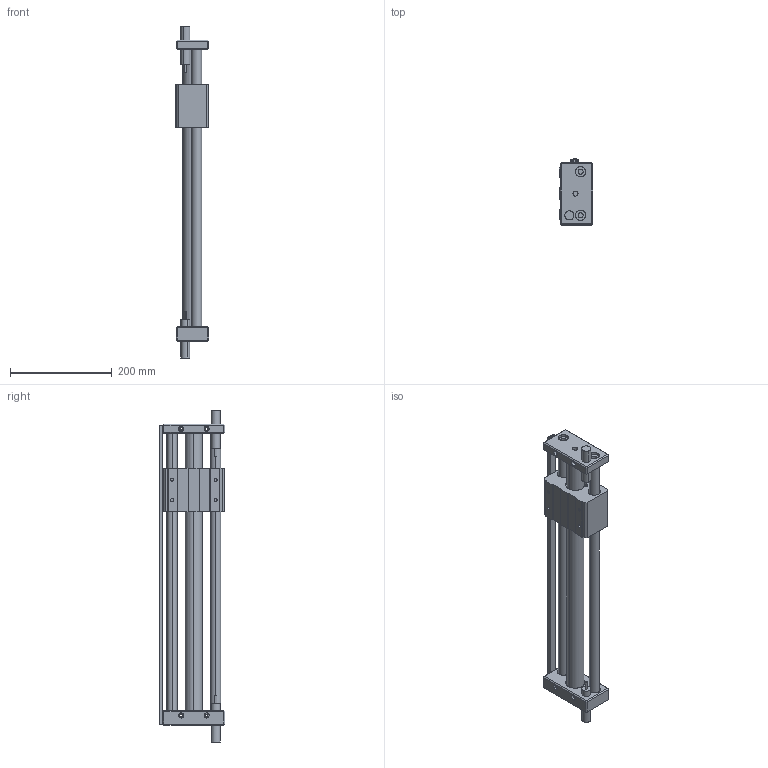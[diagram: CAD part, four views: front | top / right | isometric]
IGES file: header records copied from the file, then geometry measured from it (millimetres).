
Start section: SolidWorks IGES file using analytic representation for surfaces
Global section: file name: D:\Documents de SGA\Pieces 2D et 3D\GRU\iges\GRU 32.450.IGS; native system: SolidWorks 2010; preprocessor: SolidWorks 2010; author: SGA; date: 111216.134324; units: millimetre
Bounding box: 66 x 129.28 x 654.05 mm (x, y, z)
Surface area: 300524.3 mm2 (no closed solid volume)
Topology: 0 solids, 0 shells, 246 faces, 3800 edges, 3800 vertices
Faces by surface type: bspline 126, revolution 120
